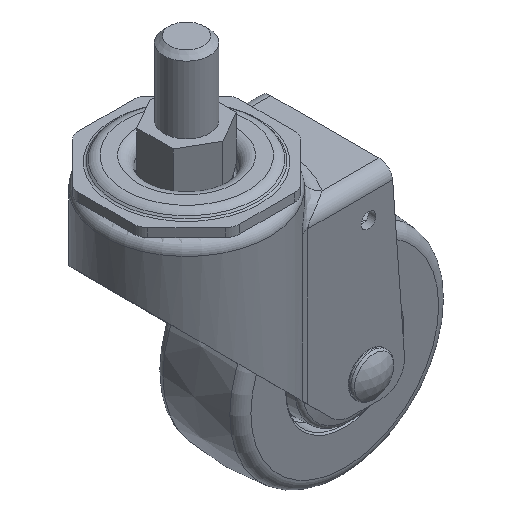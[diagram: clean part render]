
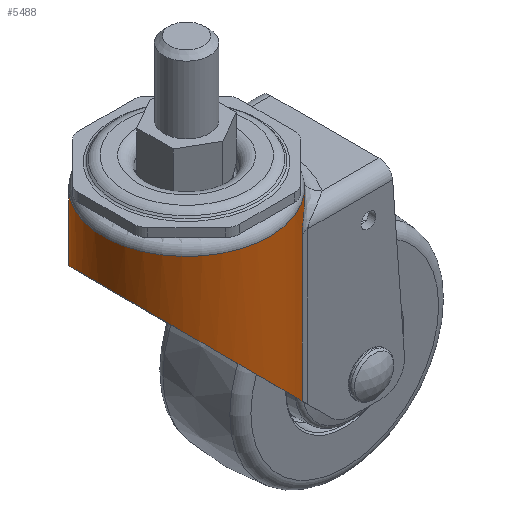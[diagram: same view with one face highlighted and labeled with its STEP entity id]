
A CAD part, isometric view. The second image highlights one B-rep face of the part: STEP entity #5488.
In plain terms, the highlighted cylindrical face has radius 29 mm (diameter 58 mm), a full revolution.
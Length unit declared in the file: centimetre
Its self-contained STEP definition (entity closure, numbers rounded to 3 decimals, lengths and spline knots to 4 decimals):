
#28=ELLIPSE('',#6084,4.1103,2.9);
#97=B_SPLINE_CURVE_WITH_KNOTS('',3,(#9707,#9708,#9709,#9710,#9711,#9712,
#9713,#9714,#9715,#9716,#9717,#9718,#9719,#9720),.UNSPECIFIED.,.F.,.F.,
(4,2,2,2,2,2,4),(0.,3.1723,6.3447,11.5482,12.0638,
15.6383,17.8723),.UNSPECIFIED.);
#98=B_SPLINE_CURVE_WITH_KNOTS('',3,(#9811,#9812,#9813,#9814,#9815,#9816,
#9817,#9818,#9819,#9820,#9821,#9822,#9823,#9824,#9825,#9826,#9827,#9828,
#9829),.UNSPECIFIED.,.F.,.F.,(4,3,3,3,3,3,4),(0.,4.6805,9.8752,
13.405,15.6112,16.99,17.8518),
 .UNSPECIFIED.);
#330=LINE('',#9630,#614);
#332=LINE('',#9832,#616);
#614=VECTOR('',#7427,5.0076);
#616=VECTOR('',#7443,5.0076);
#1077=CYLINDRICAL_SURFACE('',#6101,2.9);
#1312=FACE_BOUND('',#2081,.T.);
#1628=FACE_OUTER_BOUND('',#2080,.T.);
#2080=EDGE_LOOP('',(#4806));
#2081=EDGE_LOOP('',(#4807,#4808,#4809,#4810,#4811,#4812));
#2420=CIRCLE('',#6054,2.9);
#2442=CIRCLE('',#6102,2.9);
#2859=VERTEX_POINT('',#9627);
#2860=VERTEX_POINT('',#9629);
#2861=VERTEX_POINT('',#9705);
#2862=VERTEX_POINT('',#9722);
#2863=VERTEX_POINT('',#9809);
#2864=VERTEX_POINT('',#9831);
#2894=VERTEX_POINT('',#10132);
#3500=EDGE_CURVE('',#2859,#2860,#330,.T.);
#3504=EDGE_CURVE('',#2860,#2861,#97,.T.);
#3505=EDGE_CURVE('',#2861,#2862,#2420,.T.);
#3508=EDGE_CURVE('',#2862,#2863,#98,.T.);
#3509=EDGE_CURVE('',#2863,#2864,#332,.T.);
#3547=EDGE_CURVE('',#2859,#2864,#28,.T.);
#3562=EDGE_CURVE('',#2894,#2894,#2442,.T.);
#4806=ORIENTED_EDGE('',*,*,#3562,.T.);
#4807=ORIENTED_EDGE('',*,*,#3505,.F.);
#4808=ORIENTED_EDGE('',*,*,#3504,.F.);
#4809=ORIENTED_EDGE('',*,*,#3500,.F.);
#4810=ORIENTED_EDGE('',*,*,#3547,.T.);
#4811=ORIENTED_EDGE('',*,*,#3509,.F.);
#4812=ORIENTED_EDGE('',*,*,#3508,.F.);
#5488=ADVANCED_FACE('',(#1628,#1312),#1077,.T.);
#6054=AXIS2_PLACEMENT_3D('',#9723,#7435,#7436);
#6084=AXIS2_PLACEMENT_3D('',#10102,#7512,#7513);
#6101=AXIS2_PLACEMENT_3D('',#10131,#7552,#7553);
#6102=AXIS2_PLACEMENT_3D('',#10133,#7554,#7555);
#7427=DIRECTION('',(0.,0.,1.));
#7435=DIRECTION('center_axis',(0.,0.,-1.));
#7436=DIRECTION('ref_axis',(1.,0.,0.));
#7443=DIRECTION('',(0.,0.,-1.));
#7512=DIRECTION('center_axis',(0.709,0.,0.706));
#7513=DIRECTION('ref_axis',(-0.706,0.,0.709));
#7552=DIRECTION('center_axis',(0.,0.,-1.));
#7553=DIRECTION('ref_axis',(-1.,0.,0.));
#7554=DIRECTION('center_axis',(0.,0.,-1.));
#7555=DIRECTION('ref_axis',(-1.,0.,0.));
#9627=CARTESIAN_POINT('',(-0.4493,8.577,-6.5326));
#9629=CARTESIAN_POINT('',(-0.4493,8.577,-1.525));
#9630=CARTESIAN_POINT('',(-0.4493,8.577,-6.5326));
#9705=CARTESIAN_POINT('',(0.3561,7.7667,-0.575));
#9707=CARTESIAN_POINT('Ctrl Pts',(-0.4493,8.577,-1.525));
#9708=CARTESIAN_POINT('Ctrl Pts',(-0.4493,8.577,-1.4192));
#9709=CARTESIAN_POINT('Ctrl Pts',(-0.4253,8.5612,-1.3145));
#9710=CARTESIAN_POINT('Ctrl Pts',(-0.3513,8.5088,-1.1314));
#9711=CARTESIAN_POINT('Ctrl Pts',(-0.3017,8.4723,-1.05));
#9712=CARTESIAN_POINT('Ctrl Pts',(-0.1628,8.361,-0.8639));
#9713=CARTESIAN_POINT('Ctrl Pts',(-0.066,8.2748,-0.7726));
#9714=CARTESIAN_POINT('Ctrl Pts',(0.0381,8.1663,-0.6984));
#9715=CARTESIAN_POINT('Ctrl Pts',(0.0475,8.1564,-0.692));
#9716=CARTESIAN_POINT('Ctrl Pts',(0.1216,8.077,-0.6426));
#9717=CARTESIAN_POINT('Ctrl Pts',(0.1855,8.0017,-0.6108));
#9718=CARTESIAN_POINT('Ctrl Pts',(0.2843,7.8715,-0.5811));
#9719=CARTESIAN_POINT('Ctrl Pts',(0.3211,7.8197,-0.575));
#9720=CARTESIAN_POINT('Ctrl Pts',(0.3561,7.7667,-0.575));
#9722=CARTESIAN_POINT('',(0.3561,4.5682,-0.575));
#9723=CARTESIAN_POINT('Origin',(-2.063,6.1675,-0.575));
#9809=CARTESIAN_POINT('',(-0.4493,3.7579,-1.525));
#9811=CARTESIAN_POINT('Ctrl Pts',(0.3561,4.5682,-0.575));
#9812=CARTESIAN_POINT('Ctrl Pts',(0.2827,4.4572,-0.575));
#9813=CARTESIAN_POINT('Ctrl Pts',(0.2018,4.3517,-0.6014));
#9814=CARTESIAN_POINT('Ctrl Pts',(0.1178,4.2559,-0.6484));
#9815=CARTESIAN_POINT('Ctrl Pts',(0.0245,4.1495,-0.7005));
#9816=CARTESIAN_POINT('Ctrl Pts',(-0.0722,4.0553,
-0.7768));
#9817=CARTESIAN_POINT('Ctrl Pts',(-0.1644,3.9754,-0.8773));
#9818=CARTESIAN_POINT('Ctrl Pts',(-0.2271,3.9211,-0.9456));
#9819=CARTESIAN_POINT('Ctrl Pts',(-0.2871,3.874,-1.0245));
#9820=CARTESIAN_POINT('Ctrl Pts',(-0.3377,3.8365,-1.1167));
#9821=CARTESIAN_POINT('Ctrl Pts',(-0.3693,3.8131,-1.1744));
#9822=CARTESIAN_POINT('Ctrl Pts',(-0.3973,3.7935,-1.238));
#9823=CARTESIAN_POINT('Ctrl Pts',(-0.4172,3.7798,-1.3059));
#9824=CARTESIAN_POINT('Ctrl Pts',(-0.4296,3.7712,-1.3483));
#9825=CARTESIAN_POINT('Ctrl Pts',(-0.4391,3.7648,-1.393));
#9826=CARTESIAN_POINT('Ctrl Pts',(-0.4443,3.7612,-1.4388));
#9827=CARTESIAN_POINT('Ctrl Pts',(-0.4477,3.759,-1.4674));
#9828=CARTESIAN_POINT('Ctrl Pts',(-0.4493,3.7579,-1.4963));
#9829=CARTESIAN_POINT('Ctrl Pts',(-0.4493,3.7579,-1.525));
#9831=CARTESIAN_POINT('',(-0.4493,3.7579,-6.5326));
#9832=CARTESIAN_POINT('',(-0.4493,3.7579,-1.525));
#10102=CARTESIAN_POINT('Origin',(-2.063,6.1675,-4.9117));
#10131=CARTESIAN_POINT('Origin',(-2.063,6.1675,-5.475));
#10132=CARTESIAN_POINT('',(0.837,6.1675,-0.525));
#10133=CARTESIAN_POINT('Origin',(-2.063,6.1675,-0.525));
